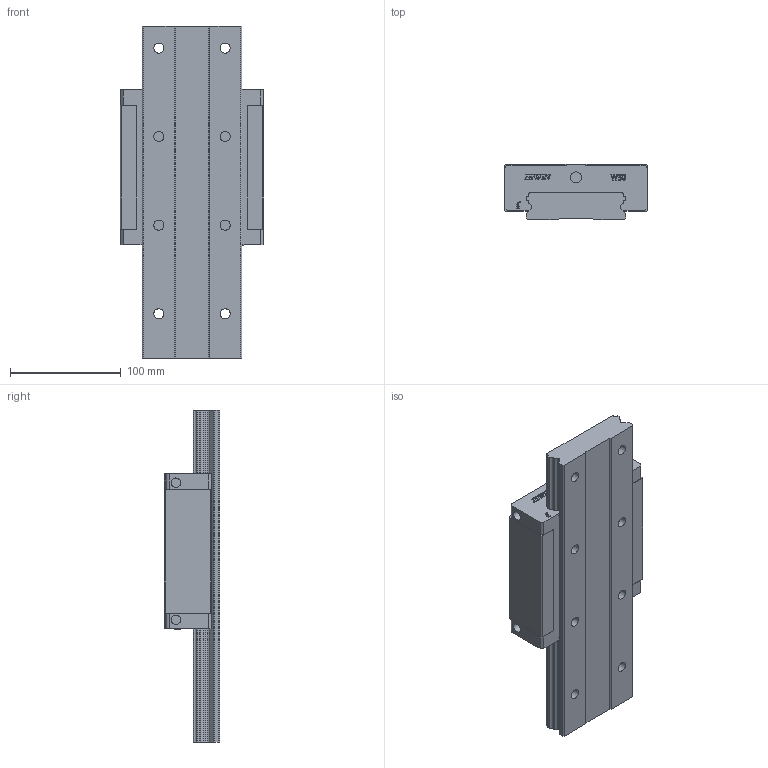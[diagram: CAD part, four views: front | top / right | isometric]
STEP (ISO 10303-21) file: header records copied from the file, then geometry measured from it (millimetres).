
FILE_DESCRIPTION((''),'2;1');
FILE_NAME('\\10.177.208.13\o000f\jenny6\桌面\WE50-20140424\WEH50CA\匯入的元件\WEH50CA\WEH50CA.stp','2014-04-24T07:24:25',('jenny6'),(''),'Autodesk Inventor 2012','Autodesk Inventor 2012','');
FILE_SCHEMA(('AUTOMOTIVE_DESIGN { 1 0 10303 214 1 1 1 1 }'));
Length unit declared in the file: millimetre
Products named in the file (3): WEH50CA; WE50-bb; WER50-rr
Assembly tree (2 placements, depth 2):
  WEH50CA
    WE50-bb
    WER50-rr
Bounding box: 130 x 50 x 300 mm (x, y, z)
Volume: 1147051.5 mm3; surface area: 147360.5 mm2
Topology: 2 solids, 8 shells, 727 faces, 1949 edges, 1283 vertices
Faces by surface type: plane 456, cylinder 171, bspline 58, cone 42
Full cylindrical faces by diameter (mm): 0.5 x2, 0.8 x1, 3.242 x4, 7.3 x2, 8.376 x6, 8.496 x4, 9 x8, 10.1 x2, 14 x8
Entity records: 24481 total; most frequent: CARTESIAN_POINT 5853, ORIENTED_EDGE 3766, DIRECTION 3497, EDGE_CURVE 1883, VECTOR 1385, LINE 1385, VERTEX_POINT 1264, AXIS2_PLACEMENT_3D 1056
